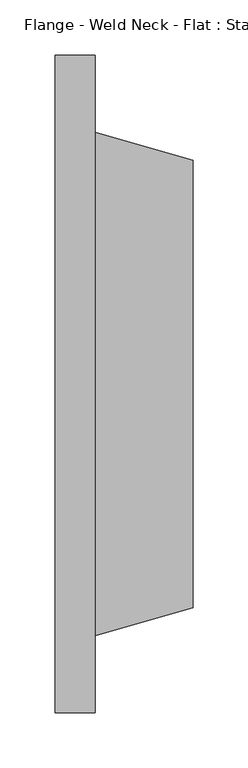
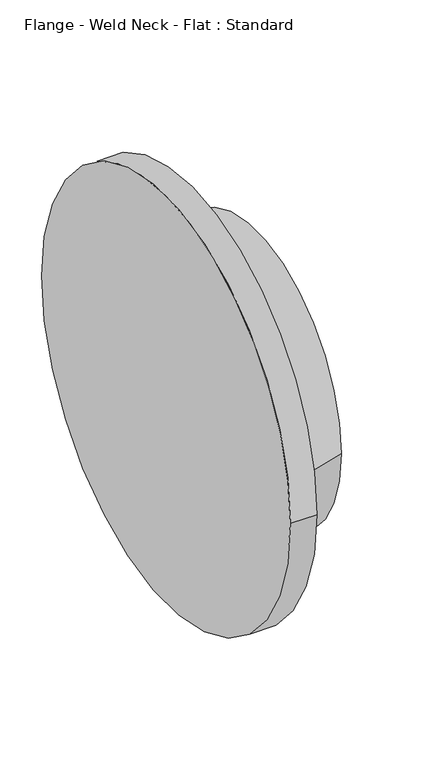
"""IFC4 building model written with IfcOpenShell, lengths in millimetres: valve geometry, Flange - Weld Neck - Flat : Standard."""

from ifc_helpers import new_model, si_unit, frame, origin, place, context, project, spatial, polyline, circle_curve, source, transform, mapped, element, save
from ifc_brep_helpers import plane_surface, cylinder_surface, revolved_surface, advanced_brep


def flange_weld_neck_flat_standard_5231e3aa(model_context):
    return source(origin(), model_context, "Body", "AdvancedBrep", [
        advanced_brep(
        [(1.5875, -298.45, 0.0), (1.5875, 298.45, 0.0), (38.1, -298.45, 0.0), (38.1, 298.45, 0.0), (38.1, 228.6, 0.0), (38.1, -228.6, 0.0), (127.0, -203.2, 0.0), (127.0, 203.2, 0.0)],
        [
            (0, 1, circle_curve(frame((1.5875, 0.0, 0.0), z_axis=(-1.0, 0.0, 0.0), x_axis=(0.0, 1.0, 0.0)), 298.45)),
            (1, 0, circle_curve(frame((1.5875, 0.0, 0.0), z_axis=(-1.0, 0.0, 0.0), x_axis=(0.0, 1.0, 0.0)), 298.45)),
            (2, 3, circle_curve(frame((38.1, 0.0, 0.0), z_axis=(1.0, 0.0, 0.0), x_axis=(0.0, 1.0, 0.0)), 298.45)),
            (3, 2, circle_curve(frame((38.1, 0.0, 0.0), z_axis=(1.0, 0.0, 0.0), x_axis=(0.0, 1.0, 0.0)), 298.45)),
            (4, 5, circle_curve(frame((38.1, 0.0, 0.0), z_axis=(-1.0, 0.0, 0.0), x_axis=(0.0, -1.0, 0.0)), 228.6)),
            (5, 4, circle_curve(frame((38.1, 0.0, 0.0), z_axis=(-1.0, 0.0, 0.0), x_axis=(0.0, 1.0, 0.0)), 228.6)),
            (0, 2),
            (3, 1),
            (6, 7, circle_curve(frame((127.0, 0.0, 0.0), z_axis=(1.0, 0.0, 0.0), x_axis=(0.0, -1.0, 0.0)), 203.2)),
            (7, 6, circle_curve(frame((127.0, 0.0, 0.0), z_axis=(1.0, 0.0, 0.0), x_axis=(0.0, 1.0, 0.0)), 203.2)),
            (6, 5),
            (4, 7),
        ],
        [
            plane_surface(frame((1.5875, 0.0, 0.0), z_axis=(-1.0, 0.0, 0.0), x_axis=(0.0, 0.0, 1.0))),
            plane_surface(frame((38.1, 0.0, 0.0), z_axis=(1.0, 0.0, 0.0), x_axis=(0.0, 0.0, 1.0))),
            cylinder_surface(frame((1.5875, 0.0, 0.0), z_axis=(-1.0, 0.0, 0.0), x_axis=(0.0, 1.0, 0.0)), 298.45),
            plane_surface(frame((127.0, 0.0, 0.0), z_axis=(1.0, 0.0, 0.0), x_axis=(0.0, 0.0, -1.0))),
            revolved_surface(polyline([(127.0, -203.20000000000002, 0.0), (38.10000000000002, -228.6, 0.0)]), (838.2, 0.0, 0.0), (-1.0, 0.0, 0.0)),
            revolved_surface(polyline([(127.0, 203.20000000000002, 0.0), (38.10000000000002, 228.6, 0.0)]), (838.2, 0.0, 0.0), (-1.0, 0.0, 0.0)),
        ],
        [
            (0, [[1, 2]]),
            (1, [[3, 4], [5, 6]]),
            (2, [[-1, 7, -4, 8]]),
            (2, [[-2, -8, -3, -7]]),
            (3, [[9, 10]]),
            (4, [[-9, 11, -5, 12]]),
            (5, [[-10, -12, -6, -11]]),
        ],
    ),
    ])


if __name__ == "__main__":
    model = new_model("IFC4")
    model_context = context("Model", 3, world=origin())
    ifc_project = project(units=[si_unit("LENGTHUNIT", "METRE", prefix="MILLI")], contexts=[model_context])
    site = spatial("IfcSite", under=ifc_project)
    building = spatial("IfcBuilding", under=site)
    placement = place(None, origin())
    flange_weld_neck_flat_standard_shape = flange_weld_neck_flat_standard_5231e3aa(model_context)
    element("IfcValve", 1, ObjectType="Flange - Weld Neck - Flat : Standard", at=placement, inside=building, context=model_context, shape_type="MappedRepresentation", body=[
        mapped(flange_weld_neck_flat_standard_shape, transform((0.0, 0.0, 0.0), x_axis=(1.0, 0.0, 0.0), y_axis=(0.0, 1.0, 0.0), z_axis=(0.0, 0.0, 1.0))),
    ])
    save(model, "model.ifc")
